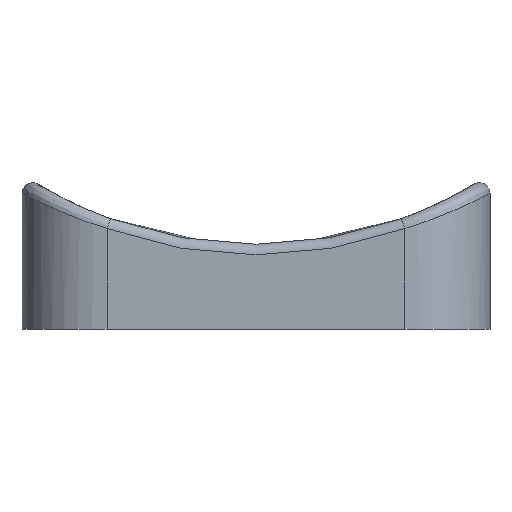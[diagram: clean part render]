
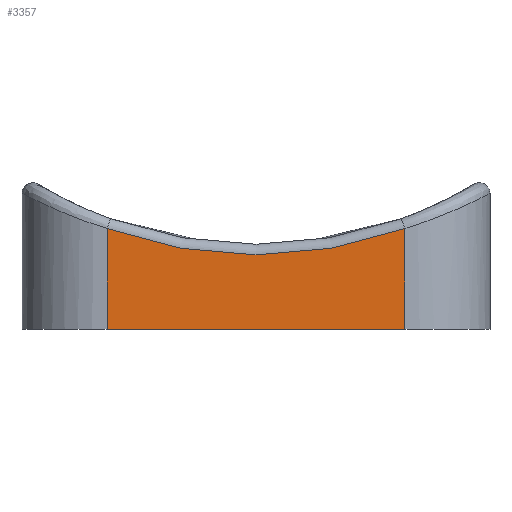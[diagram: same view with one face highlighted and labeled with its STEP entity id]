
A CAD part, front view. The second image highlights one B-rep face of the part: STEP entity #3357.
In plain terms, the highlighted planar face has unit normal (0, -1, 0).
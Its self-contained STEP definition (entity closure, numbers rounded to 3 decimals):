
#100 = CYLINDRICAL_SURFACE('',#101,8.);
#101 = AXIS2_PLACEMENT_3D('',#102,#103,#104);
#102 = CARTESIAN_POINT('',(-14.,-40.,122.));
#103 = DIRECTION('',(0.,0.,1.));
#104 = DIRECTION('',(-1.,-0.,0.));
#126 = PLANE('',#127);
#127 = AXIS2_PLACEMENT_3D('',#128,#129,#130);
#128 = CARTESIAN_POINT('',(-22.,-48.,122.));
#129 = DIRECTION('',(0.,0.,1.));
#130 = DIRECTION('',(1.,0.,0.));
#900 = VERTEX_POINT('',#901);
#901 = CARTESIAN_POINT('',(-14.,-48.,122.));
#923 = EDGE_CURVE('',#900,#924,#926,.T.);
#924 = VERTEX_POINT('',#925);
#925 = CARTESIAN_POINT('',(14.,-48.,122.));
#926 = SURFACE_CURVE('',#927,(#931,#938),.PCURVE_S1.);
#927 = LINE('',#928,#929);
#928 = CARTESIAN_POINT('',(-22.,-48.,122.));
#929 = VECTOR('',#930,1.);
#930 = DIRECTION('',(1.,0.,0.));
#931 = PCURVE('',#126,#932);
#932 = DEFINITIONAL_REPRESENTATION('',(#933),#937);
#933 = LINE('',#934,#935);
#934 = CARTESIAN_POINT('',(0.,0.));
#935 = VECTOR('',#936,1.);
#936 = DIRECTION('',(1.,0.));
#937 = ( GEOMETRIC_REPRESENTATION_CONTEXT(2) 
PARAMETRIC_REPRESENTATION_CONTEXT() REPRESENTATION_CONTEXT('2D SPACE',''
  ) );
#938 = PCURVE('',#939,#944);
#939 = PLANE('',#940);
#940 = AXIS2_PLACEMENT_3D('',#941,#942,#943);
#941 = CARTESIAN_POINT('',(-22.,-48.,122.));
#942 = DIRECTION('',(0.,1.,0.));
#943 = DIRECTION('',(0.,0.,1.));
#944 = DEFINITIONAL_REPRESENTATION('',(#945),#949);
#945 = LINE('',#946,#947);
#946 = CARTESIAN_POINT('',(0.,0.));
#947 = VECTOR('',#948,1.);
#948 = DIRECTION('',(0.,1.));
#949 = ( GEOMETRIC_REPRESENTATION_CONTEXT(2) 
PARAMETRIC_REPRESENTATION_CONTEXT() REPRESENTATION_CONTEXT('2D SPACE',''
  ) );
#972 = CYLINDRICAL_SURFACE('',#973,8.);
#973 = AXIS2_PLACEMENT_3D('',#974,#975,#976);
#974 = CARTESIAN_POINT('',(14.,-40.,122.));
#975 = DIRECTION('',(0.,0.,1.));
#976 = DIRECTION('',(1.,0.,-0.));
#1292 = EDGE_CURVE('',#900,#1293,#1295,.T.);
#1293 = VERTEX_POINT('',#1294);
#1294 = CARTESIAN_POINT('',(-14.,-48.,131.464));
#1295 = SURFACE_CURVE('',#1296,(#1300,#1307),.PCURVE_S1.);
#1296 = LINE('',#1297,#1298);
#1297 = CARTESIAN_POINT('',(-14.,-48.,122.));
#1298 = VECTOR('',#1299,1.);
#1299 = DIRECTION('',(0.,0.,1.));
#1300 = PCURVE('',#100,#1301);
#1301 = DEFINITIONAL_REPRESENTATION('',(#1302),#1306);
#1302 = LINE('',#1303,#1304);
#1303 = CARTESIAN_POINT('',(1.571,0.));
#1304 = VECTOR('',#1305,1.);
#1305 = DIRECTION('',(0.,1.));
#1306 = ( GEOMETRIC_REPRESENTATION_CONTEXT(2) 
PARAMETRIC_REPRESENTATION_CONTEXT() REPRESENTATION_CONTEXT('2D SPACE',''
  ) );
#1307 = PCURVE('',#939,#1308);
#1308 = DEFINITIONAL_REPRESENTATION('',(#1309),#1313);
#1309 = LINE('',#1310,#1311);
#1310 = CARTESIAN_POINT('',(0.,8.));
#1311 = VECTOR('',#1312,1.);
#1312 = DIRECTION('',(1.,0.));
#1313 = ( GEOMETRIC_REPRESENTATION_CONTEXT(2) 
PARAMETRIC_REPRESENTATION_CONTEXT() REPRESENTATION_CONTEXT('2D SPACE',''
  ) );
#1803 = TOROIDAL_SURFACE('',#1804,41.,1.);
#1804 = AXIS2_PLACEMENT_3D('',#1805,#1806,#1807);
#1805 = CARTESIAN_POINT('',(0.,-47.,170.));
#1806 = DIRECTION('',(-0.,-1.,-0.));
#1807 = DIRECTION('',(0.35,0.,-0.937));
#3357 = ADVANCED_FACE('',(#3358),#939,.F.);
#3358 = FACE_BOUND('',#3359,.F.);
#3359 = EDGE_LOOP('',(#3360,#3383,#3384,#3385));
#3360 = ORIENTED_EDGE('',*,*,#3361,.F.);
#3361 = EDGE_CURVE('',#924,#3362,#3364,.T.);
#3362 = VERTEX_POINT('',#3363);
#3363 = CARTESIAN_POINT('',(14.,-48.,131.464));
#3364 = SURFACE_CURVE('',#3365,(#3369,#3376),.PCURVE_S1.);
#3365 = LINE('',#3366,#3367);
#3366 = CARTESIAN_POINT('',(14.,-48.,122.));
#3367 = VECTOR('',#3368,1.);
#3368 = DIRECTION('',(0.,0.,1.));
#3369 = PCURVE('',#939,#3370);
#3370 = DEFINITIONAL_REPRESENTATION('',(#3371),#3375);
#3371 = LINE('',#3372,#3373);
#3372 = CARTESIAN_POINT('',(0.,36.));
#3373 = VECTOR('',#3374,1.);
#3374 = DIRECTION('',(1.,0.));
#3375 = ( GEOMETRIC_REPRESENTATION_CONTEXT(2) 
PARAMETRIC_REPRESENTATION_CONTEXT() REPRESENTATION_CONTEXT('2D SPACE',''
  ) );
#3376 = PCURVE('',#972,#3377);
#3377 = DEFINITIONAL_REPRESENTATION('',(#3378),#3382);
#3378 = LINE('',#3379,#3380);
#3379 = CARTESIAN_POINT('',(-1.571,0.));
#3380 = VECTOR('',#3381,1.);
#3381 = DIRECTION('',(-0.,1.));
#3382 = ( GEOMETRIC_REPRESENTATION_CONTEXT(2) 
PARAMETRIC_REPRESENTATION_CONTEXT() REPRESENTATION_CONTEXT('2D SPACE',''
  ) );
#3383 = ORIENTED_EDGE('',*,*,#923,.F.);
#3384 = ORIENTED_EDGE('',*,*,#1292,.T.);
#3385 = ORIENTED_EDGE('',*,*,#3386,.F.);
#3386 = EDGE_CURVE('',#3362,#1293,#3387,.T.);
#3387 = SURFACE_CURVE('',#3388,(#3393,#3400),.PCURVE_S1.);
#3388 = CIRCLE('',#3389,41.);
#3389 = AXIS2_PLACEMENT_3D('',#3390,#3391,#3392);
#3390 = CARTESIAN_POINT('',(0.,-48.,170.));
#3391 = DIRECTION('',(0.,1.,0.));
#3392 = DIRECTION('',(0.35,0.,-0.937));
#3393 = PCURVE('',#939,#3394);
#3394 = DEFINITIONAL_REPRESENTATION('',(#3395),#3399);
#3395 = CIRCLE('',#3396,41.);
#3396 = AXIS2_PLACEMENT_2D('',#3397,#3398);
#3397 = CARTESIAN_POINT('',(48.,22.));
#3398 = DIRECTION('',(-0.937,0.35));
#3399 = ( GEOMETRIC_REPRESENTATION_CONTEXT(2) 
PARAMETRIC_REPRESENTATION_CONTEXT() REPRESENTATION_CONTEXT('2D SPACE',''
  ) );
#3400 = PCURVE('',#1803,#3401);
#3401 = DEFINITIONAL_REPRESENTATION('',(#3402),#3406);
#3402 = LINE('',#3403,#3404);
#3403 = CARTESIAN_POINT('',(-0.,1.571));
#3404 = VECTOR('',#3405,1.);
#3405 = DIRECTION('',(-1.,0.));
#3406 = ( GEOMETRIC_REPRESENTATION_CONTEXT(2) 
PARAMETRIC_REPRESENTATION_CONTEXT() REPRESENTATION_CONTEXT('2D SPACE',''
  ) );
